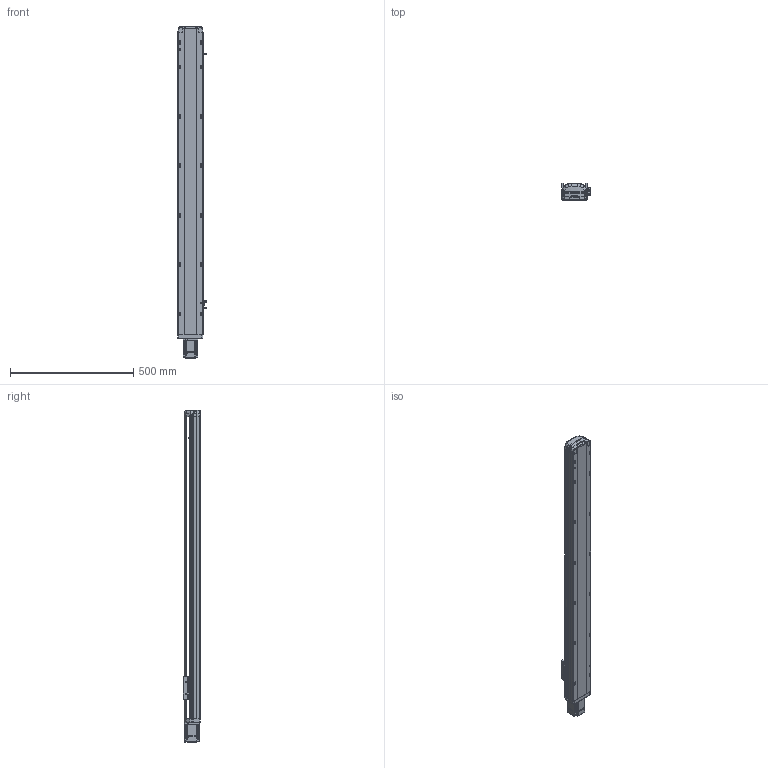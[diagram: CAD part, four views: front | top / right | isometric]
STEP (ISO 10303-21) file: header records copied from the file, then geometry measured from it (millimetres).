
FILE_DESCRIPTION (( 'STEP AP214' ), '1' );
FILE_NAME ('RTH10-XX-1000-E-M20-C4.STEP', '2025-10-24T10:48:47', ( '' ), ( '' ), 'SwSTEP 2.0', 'SolidWorks 2018', '' );
FILE_SCHEMA (( 'AUTOMOTIVE_DESIGN' ));
Length unit declared in the file: millimetre
Products named in the file (9): N_RTH12-GY-001P^RTH10-XX-XX-E-M20-C4（方程式）; RTH10-XX-1000-E-M20-C4; N_RTH12-E-007P-奻裔^RTH10-XX-XX-E-M20-C4ㄗ源最宒ㄘ; N_RTH12-E-008-M20电机板^RTH10-XX-XX-E-M20-C4（方程式）; N_RTH12-E-011P-臏倰第菁釱^RTH10-XX-XX-E-M20-C4ㄗ源最宒ㄘ; N_200W-1^RTH10-XX-XX-E-M20-C4（方程式）; N_RTH13-L-012感应片外置^RTH10-XX-XX-E-M20-C4（方程式）; N_OMRON EE-SX672 換覜ん^RTH10-XX-XX-E-M20-C4ㄗ源最宒ㄘ; N_RTH12-GY-004-滑座^RTH10-XX-XX-E-M20-C4（方程式）
Assembly tree (10 placements, depth 2):
  RTH10-XX-1000-E-M20-C4
    N_RTH12-E-011P-臏倰第菁釱^RTH10-XX-XX-E-M20-C4ㄗ源最宒ㄘ
    N_RTH13-L-012感应片外置^RTH10-XX-XX-E-M20-C4（方程式）
    N_OMRON EE-SX672 換覜ん^RTH10-XX-XX-E-M20-C4ㄗ源最宒ㄘ  x3
    N_RTH12-E-007P-奻裔^RTH10-XX-XX-E-M20-C4ㄗ源最宒ㄘ
    N_RTH12-GY-001P^RTH10-XX-XX-E-M20-C4（方程式）
    N_RTH12-GY-004-滑座^RTH10-XX-XX-E-M20-C4（方程式）
    N_200W-1^RTH10-XX-XX-E-M20-C4（方程式）
    N_RTH12-E-008-M20电机板^RTH10-XX-XX-E-M20-C4（方程式）
Bounding box: 116.5 x 70 x 1345.14 mm (x, y, z)
Volume: 5084922.7 mm3; surface area: 779941.3 mm2
Topology: 9 solids, 11 shells, 2048 faces, 5716 edges, 3754 vertices
Faces by surface type: plane 1016, cylinder 525, bspline 472, cone 33, torus 2
Entity records: 62070 total; most frequent: CARTESIAN_POINT 23962, ORIENTED_EDGE 8512, DIRECTION 6672, EDGE_CURVE 4262, VERTEX_POINT 2798, VECTOR 2280, LINE 2280, AXIS2_PLACEMENT_3D 2196
